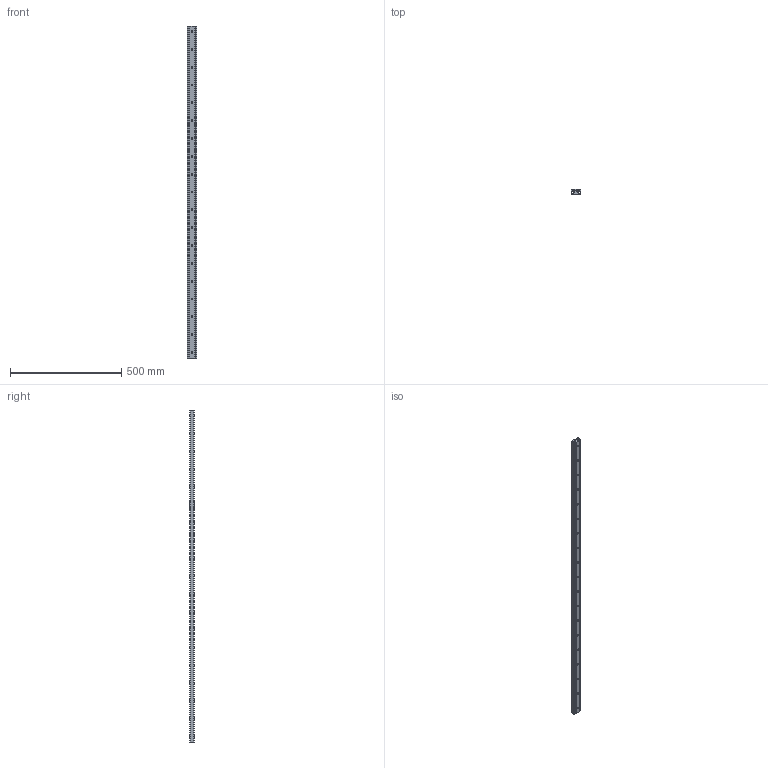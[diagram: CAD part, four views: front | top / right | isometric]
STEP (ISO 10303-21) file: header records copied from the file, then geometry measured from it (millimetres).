
FILE_DESCRIPTION(('STEP AP214'),'1');
FILE_NAME('rail_asn43-1490_00.stp','2017-06-06T10:16:11',('TraceParts'),('TraceParts S.A.'),'Spatial InterOp 3D',' ',' ');
FILE_SCHEMA(('automotive_design'));
Length unit declared in the file: millimetre
Products named in the file (2): rail_asn43-1490_00_1; rail_asn43-1490_00_2
Bounding box: 43 x 22.01 x 1490 mm (x, y, z)
Volume: 906888.2 mm3; surface area: 350670.1 mm2
Topology: 2 solids, 2 shells, 267 faces, 660 edges, 402 vertices
Faces by surface type: cone 114, cylinder 107, plane 46
Entity records: 8092 total; most frequent: DIRECTION 1526, CARTESIAN_POINT 1331, ORIENTED_EDGE 1320, EDGE_CURVE 660, AXIS2_PLACEMENT_3D 597, VERTEX_POINT 402, EDGE_LOOP 348, LINE 332
